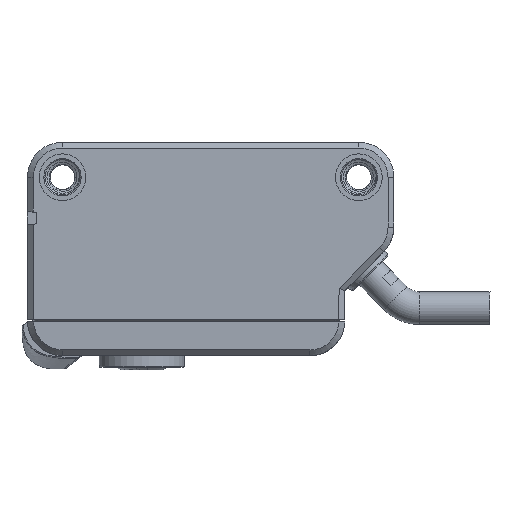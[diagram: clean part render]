
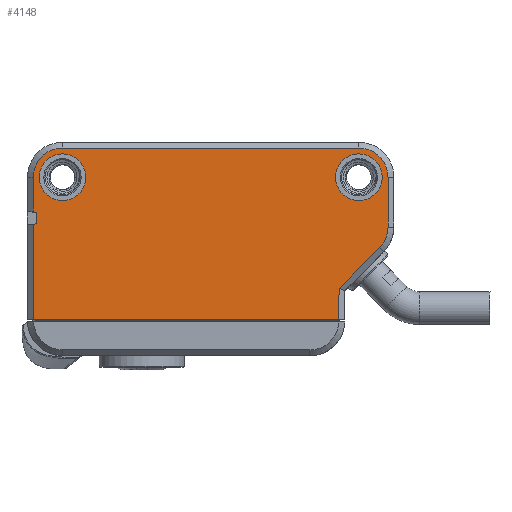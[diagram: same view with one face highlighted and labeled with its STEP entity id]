
A CAD part, left-side view. The second image highlights one B-rep face of the part: STEP entity #4148.
In plain terms, the highlighted planar face has unit normal (-1, 0, 0) as drawn and (0, 0, -1) by its records, which use the part's own axes.
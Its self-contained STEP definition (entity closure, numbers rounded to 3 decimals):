
#626=CARTESIAN_POINT('',(-12.7,-3.,-6.));
#627=DIRECTION('',(0.,0.,-1.));
#628=DIRECTION('',(1.,0.,0.));
#629=AXIS2_PLACEMENT_3D('',#626,#627,#628);
#634=CARTESIAN_POINT('',(-12.7,-3.,-6.));
#635=DIRECTION('',(0.,0.,-1.));
#636=DIRECTION('',(-1.,0.,0.));
#637=AXIS2_PLACEMENT_3D('',#634,#635,#636);
#642=CARTESIAN_POINT('',(12.7,-3.,-6.));
#643=DIRECTION('',(0.,0.,-1.));
#644=DIRECTION('',(1.,0.,0.));
#645=AXIS2_PLACEMENT_3D('',#642,#643,#644);
#650=CARTESIAN_POINT('',(12.7,-3.,-6.));
#651=DIRECTION('',(0.,0.,-1.));
#652=DIRECTION('',(-1.,0.,0.));
#653=AXIS2_PLACEMENT_3D('',#650,#651,#652);
#658=DIRECTION('',(1.,0.,0.));
#659=VECTOR('',#658,26.15);
#660=CARTESIAN_POINT('',(-10.967,-15.2,-6.));
#661=LINE('',#660,#659);
#665=DIRECTION('',(0.,1.,0.));
#666=VECTOR('',#665,8.185);
#667=CARTESIAN_POINT('',(15.183,-15.2,-6.));
#668=LINE('',#667,#666);
#672=DIRECTION('',(0.,-1.,0.));
#673=VECTOR('',#672,1.);
#674=CARTESIAN_POINT('',(14.9,-6.,-6.));
#675=LINE('',#674,#673);
#679=DIRECTION('',(0.,-1.,0.));
#680=VECTOR('',#679,2.984);
#681=CARTESIAN_POINT('',(15.2,-3.,-6.));
#682=LINE('',#681,#680);
#686=CARTESIAN_POINT('',(12.7,-3.,-6.));
#687=DIRECTION('',(0.,0.,-1.));
#688=DIRECTION('',(0.,1.,0.));
#689=AXIS2_PLACEMENT_3D('',#686,#687,#688);
#694=DIRECTION('',(1.,0.,0.));
#695=VECTOR('',#694,25.4);
#696=CARTESIAN_POINT('',(-12.7,-0.5,
-6.));
#697=LINE('',#696,#695);
#701=CARTESIAN_POINT('',(-12.7,-3.,-6.));
#702=DIRECTION('',(0.,0.,-1.));
#703=DIRECTION('',(-1.,0.,0.));
#704=AXIS2_PLACEMENT_3D('',#701,#702,#703);
#709=DIRECTION('',(0.,-1.,0.));
#710=VECTOR('',#709,4.272);
#711=CARTESIAN_POINT('',(-15.2,-3.,
-6.));
#712=LINE('',#711,#710);
#716=CARTESIAN_POINT('',(-12.7,-7.272,-6.));
#717=DIRECTION('',(0.,0.,1.));
#718=DIRECTION('',(-1.,0.,0.));
#719=AXIS2_PLACEMENT_3D('',#716,#717,#718);
#724=DIRECTION('',(0.707,-0.707,0.));
#725=VECTOR('',#724,4.897);
#726=CARTESIAN_POINT('',(-14.467,-9.04,
-6.));
#727=LINE('',#726,#725);
#752=DIRECTION('',(-0.014,1.,0.));
#753=VECTOR('',#752,2.697);
#754=CARTESIAN_POINT('',(-10.967,-15.2,-6.));
#755=LINE('',#754,#753);
#2005=DIRECTION('',(-0.999,-0.052,0.));
#2006=VECTOR('',#2005,0.3);
#2007=CARTESIAN_POINT('',(15.2,-5.984,-6.));
#2008=LINE('',#2007,#2006);
#2040=DIRECTION('',(0.999,-0.052,0.));
#2041=VECTOR('',#2040,0.283);
#2042=CARTESIAN_POINT('',(14.9,-7.,-6.));
#2043=LINE('',#2042,#2041);
#3517=CARTESIAN_POINT('',(14.7,-3.,-6.));
#3518=CARTESIAN_POINT('',(10.7,-3.,-6.));
#3519=VERTEX_POINT('',#3517);
#3520=VERTEX_POINT('',#3518);
#3521=CARTESIAN_POINT('',(-10.7,-3.,-6.));
#3522=CARTESIAN_POINT('',(-14.7,-3.,-6.));
#3523=VERTEX_POINT('',#3521);
#3524=VERTEX_POINT('',#3522);
#3538=CARTESIAN_POINT('',(15.183,-15.2,-6.));
#3540=VERTEX_POINT('',#3538);
#3557=CARTESIAN_POINT('',(12.7,-0.5,-6.));
#3558=CARTESIAN_POINT('',(15.2,-3.,-6.));
#3559=VERTEX_POINT('',#3557);
#3560=VERTEX_POINT('',#3558);
#3565=CARTESIAN_POINT('',(-12.7,-0.5,
-6.));
#3566=VERTEX_POINT('',#3565);
#3569=CARTESIAN_POINT('',(-15.2,-3.,-6.));
#3570=VERTEX_POINT('',#3569);
#3587=CARTESIAN_POINT('',(-15.2,-7.272,
-6.));
#3588=VERTEX_POINT('',#3587);
#3589=CARTESIAN_POINT('',(-14.467,-9.04,
-6.));
#3591=VERTEX_POINT('',#3589);
#3595=CARTESIAN_POINT('',(-11.004,-12.503,
-6.));
#3596=VERTEX_POINT('',#3595);
#3642=CARTESIAN_POINT('',(-10.967,-15.2,-6.));
#3644=VERTEX_POINT('',#3642);
#3646=CARTESIAN_POINT('',(14.9,-7.,-6.));
#3648=VERTEX_POINT('',#3646);
#3657=CARTESIAN_POINT('',(14.9,-6.,-6.));
#3659=VERTEX_POINT('',#3657);
#3679=CARTESIAN_POINT('',(15.183,-7.015,-6.));
#3680=VERTEX_POINT('',#3679);
#3681=CARTESIAN_POINT('',(15.2,-5.984,-6.));
#3683=VERTEX_POINT('',#3681);
#4105=CARTESIAN_POINT('',(15.7,0.,-6.));
#4106=DIRECTION('',(0.,0.,-1.));
#4107=DIRECTION('',(-1.,0.,0.));
#4108=AXIS2_PLACEMENT_3D('',#4105,#4106,#4107);
#4109=PLANE('',#4108);
#4111=ORIENTED_EDGE('',*,*,#4110,.F.);
#4113=ORIENTED_EDGE('',*,*,#4112,.T.);
#4115=ORIENTED_EDGE('',*,*,#4114,.T.);
#4117=ORIENTED_EDGE('',*,*,#4116,.F.);
#4119=ORIENTED_EDGE('',*,*,#4118,.F.);
#4121=ORIENTED_EDGE('',*,*,#4120,.F.);
#4123=ORIENTED_EDGE('',*,*,#4122,.F.);
#4125=ORIENTED_EDGE('',*,*,#4124,.F.);
#4127=ORIENTED_EDGE('',*,*,#4126,.F.);
#4129=ORIENTED_EDGE('',*,*,#4128,.F.);
#4131=ORIENTED_EDGE('',*,*,#4130,.T.);
#4133=ORIENTED_EDGE('',*,*,#4132,.T.);
#4135=ORIENTED_EDGE('',*,*,#4134,.T.);
#4136=EDGE_LOOP('',(#4111,#4113,#4115,#4117,#4119,#4121,#4123,#4125,#4127,#4129,
#4131,#4133,#4135));
#4137=FACE_OUTER_BOUND('',#4136,.F.);
#4139=ORIENTED_EDGE('',*,*,#4138,.T.);
#4141=ORIENTED_EDGE('',*,*,#4140,.T.);
#4142=EDGE_LOOP('',(#4139,#4141));
#4143=FACE_BOUND('',#4142,.F.);
#4144=ORIENTED_EDGE('',*,*,#4084,.T.);
#4145=ORIENTED_EDGE('',*,*,#4098,.T.);
#4146=EDGE_LOOP('',(#4144,#4145));
#4147=FACE_BOUND('',#4146,.F.);
#4148=ADVANCED_FACE('',(#4137,#4143,#4147),#4109,.T.);
#630=CIRCLE('',#629,2.);
#638=CIRCLE('',#637,2.);
#646=CIRCLE('',#645,2.);
#654=CIRCLE('',#653,2.);
#690=CIRCLE('',#689,2.5);
#705=CIRCLE('',#704,2.5);
#720=CIRCLE('',#719,2.5);
#4084=EDGE_CURVE('',#3523,#3524,#630,.T.);
#4098=EDGE_CURVE('',#3524,#3523,#638,.T.);
#4110=EDGE_CURVE('',#3644,#3596,#755,.T.);
#4112=EDGE_CURVE('',#3644,#3540,#661,.T.);
#4114=EDGE_CURVE('',#3540,#3680,#668,.T.);
#4116=EDGE_CURVE('',#3648,#3680,#2043,.T.);
#4118=EDGE_CURVE('',#3659,#3648,#675,.T.);
#4120=EDGE_CURVE('',#3683,#3659,#2008,.T.);
#4122=EDGE_CURVE('',#3560,#3683,#682,.T.);
#4124=EDGE_CURVE('',#3559,#3560,#690,.T.);
#4126=EDGE_CURVE('',#3566,#3559,#697,.T.);
#4128=EDGE_CURVE('',#3570,#3566,#705,.T.);
#4130=EDGE_CURVE('',#3570,#3588,#712,.T.);
#4132=EDGE_CURVE('',#3588,#3591,#720,.T.);
#4134=EDGE_CURVE('',#3591,#3596,#727,.T.);
#4138=EDGE_CURVE('',#3519,#3520,#646,.T.);
#4140=EDGE_CURVE('',#3520,#3519,#654,.T.);
